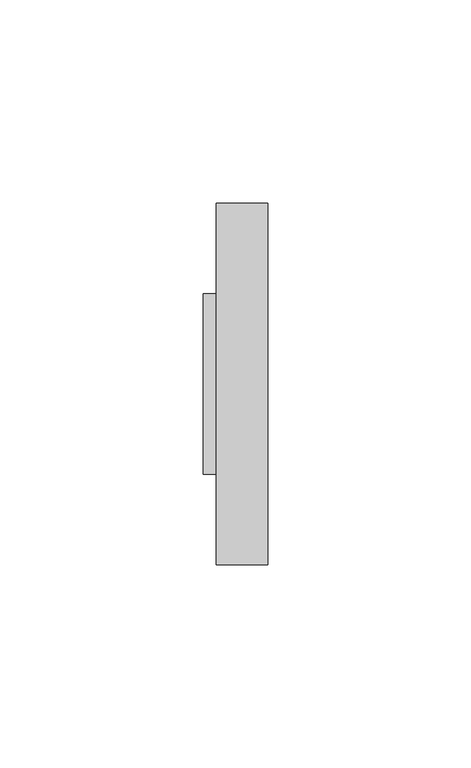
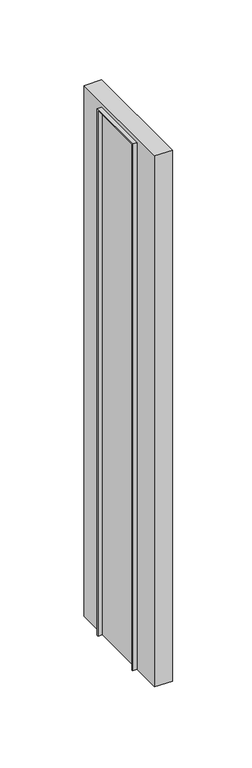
"""IFC4 building model written with IfcOpenShell, lengths in millimetres: furniture geometry."""

from ifc_helpers import new_model, si_unit, frame, origin, place, context, project, spatial, polyline, outline, extrude, source, transform, mapped, element, save


def furniture_7367badf(model_context):
    return source(origin(), model_context, "Body", "SweptSolid", [
        extrude(outline(polyline([(-28.0212056, 1368.425), (16.4287944, 1368.425), (16.4287944, 965.2), (15.6350444, 965.2), (15.6350444, 1367.63125), (-27.2274556, 1367.63125), (-27.2274556, 965.2), (-28.0212056, 965.2), (-28.0212056, 1368.425)])), frame((-8.5456018, 0.0, 0.0), z_axis=(1.0, 0.0, 0.0), x_axis=(0.0, 1.0, 0.0)), (0.0, 0.0, 1.0), 3.175),
        extrude(outline(polyline([(7.3293982, 38.6537944), (7.3293982, -50.2462056), (-5.3706018, -50.2462056), (-5.3706018, 38.6537944), (7.3293982, 38.6537944)])), frame((0.0, 0.0, 965.2), z_axis=(0.0, 0.0, 1.0), x_axis=(1.0, 0.0, 0.0)), (0.0, 0.0, 1.0), 406.4),
    ])


if __name__ == "__main__":
    model = new_model("IFC4")
    model_context = context("Model", 3, world=origin())
    ifc_project = project(units=[si_unit("LENGTHUNIT", "METRE", prefix="MILLI")], contexts=[model_context])
    site = spatial("IfcSite", under=ifc_project)
    building = spatial("IfcBuilding", under=site)
    placement = place(None, origin())
    furniture_shape = furniture_7367badf(model_context)
    element("IfcFurniture", 1, ObjectType="HermanMiller_Ethospace_E1251_FinishedEndChangeOfHeight : Std Ptd 16\"H", at=placement, inside=building, context=model_context, shape_type="MappedRepresentation", body=[
        mapped(furniture_shape, transform((0.0, 0.0, 0.0), x_axis=(1.0, 0.0, 0.0), y_axis=(0.0, 1.0, 0.0), z_axis=(0.0, 0.0, 1.0))),
    ])
    save(model, "model.ifc")
